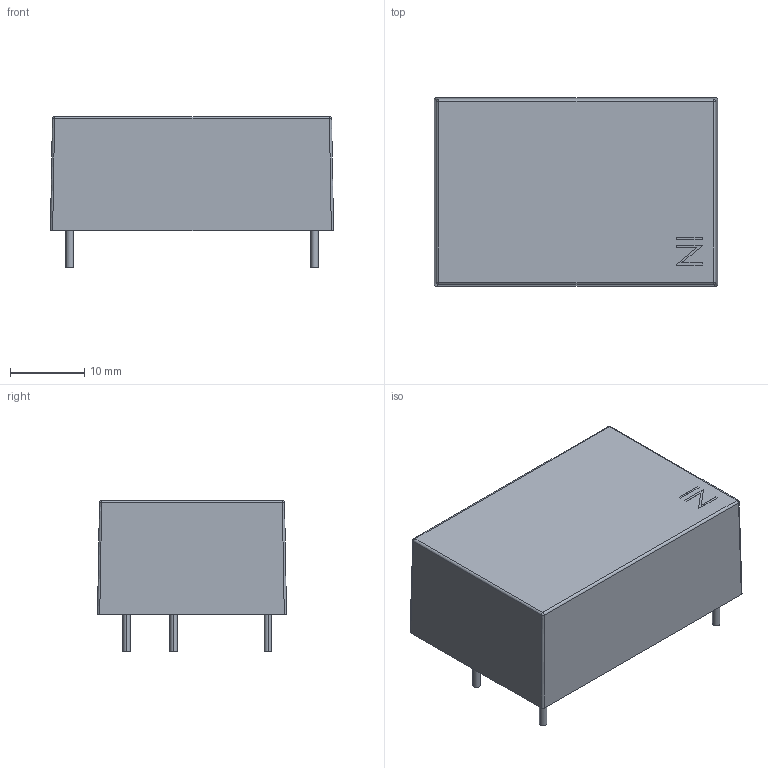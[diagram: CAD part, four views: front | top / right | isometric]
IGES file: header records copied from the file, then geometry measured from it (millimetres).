
Start section: SolidWorks IGES file using analytic representation for surfaces
Global section: file name: C:\Users\davidcook\Desktop\Kent power\ECE10 SPEC.IGS; native system: SolidWorks 2013; preprocessor: SolidWorks 2013; author: davidcook; date: 130319.092236; units: inch
Bounding box: 38.2 x 25.5 x 20.37 mm (x, y, z)
Volume: 6511.2 mm3; surface area: 13620.5 mm2
Topology: 23 solids, 23 shells, 548 faces, 1355 edges, 856 vertices
Faces by surface type: plane 316, revolution 128, bspline 104
